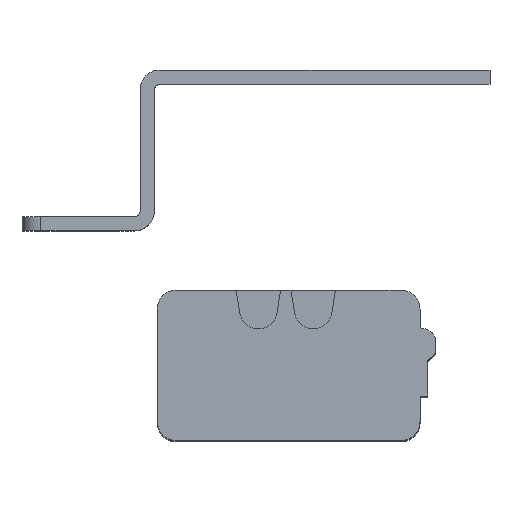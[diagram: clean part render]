
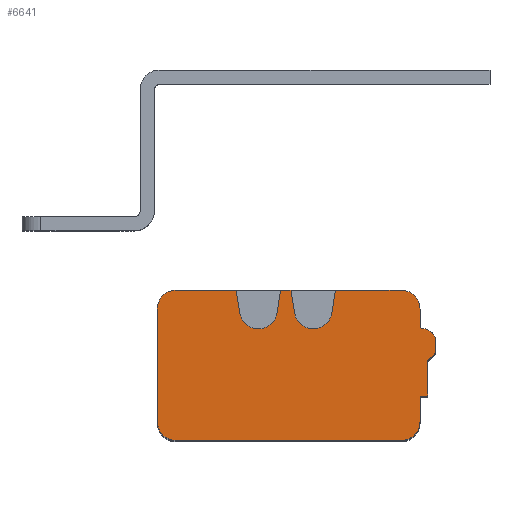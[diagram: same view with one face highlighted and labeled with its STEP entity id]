
A CAD part, top view. The second image highlights one B-rep face of the part: STEP entity #6641.
In plain terms, the highlighted planar face has unit normal (0, 0, 1).
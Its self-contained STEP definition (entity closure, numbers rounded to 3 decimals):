
#5376=CARTESIAN_POINT(' ',(12.677,13.496,5.15));
#5377=VERTEX_POINT(' ',#5376);
#5456=CARTESIAN_POINT(' ',(8.723,13.496,5.15));
#5457=VERTEX_POINT(' ',#5456);
#5471=CARTESIAN_POINT(' ',(10.7,13.8,5.15));
#5476=DIRECTION(' ',(0.,-0.,1.));
#5481=DIRECTION(' ',(-0.988,-0.152,0.));
#5486=AXIS2_PLACEMENT_3D(' ',#5471,#5476,#5481);
#5491=CIRCLE('',#5486,2.);
#5496=EDGE_CURVE(' ',#5457,#5377,#5491,.T.);
#5586=CARTESIAN_POINT(' ',(12.677,13.496,5.15));
#5591=DIRECTION(' ',(0.152,0.988,0.));
#5596=VECTOR(' ',#5591,1.);
#5601=LINE('',#5586,#5596);
#5606=CARTESIAN_POINT(' ',(13.046,15.9,5.15));
#5607=VERTEX_POINT(' ',#5606);
#5611=EDGE_CURVE(' ',#5377,#5607,#5601,.T.);
#5806=CARTESIAN_POINT(' ',(8.354,15.9,5.15));
#5811=DIRECTION(' ',(0.152,-0.988,0.));
#5816=VECTOR(' ',#5811,1.);
#5821=LINE('',#5806,#5816);
#5826=CARTESIAN_POINT(' ',(8.354,15.9,5.15));
#5827=VERTEX_POINT(' ',#5826);
#5831=EDGE_CURVE(' ',#5827,#5457,#5821,.T.);
#5896=DIRECTION(' ',(0.,-0.,1.));
#5901=CARTESIAN_POINT(' ',(29.4,0.,5.15));
#5906=DIRECTION(' ',(0.,1.,0.));
#5911=AXIS2_PLACEMENT_3D(' ',#5901,#5896,#5906);
#5916=PLANE('NONE',#5911);
#5921=CARTESIAN_POINT(' ',(18.477,13.496,5.15));
#5926=DIRECTION(' ',(0.152,0.988,0.));
#5931=VECTOR(' ',#5926,1.);
#5936=LINE('',#5921,#5931);
#5941=CARTESIAN_POINT(' ',(18.477,13.496,5.15));
#5942=VERTEX_POINT(' ',#5941);
#5946=CARTESIAN_POINT(' ',(18.846,15.9,5.15));
#5947=VERTEX_POINT(' ',#5946);
#5951=EDGE_CURVE(' ',#5942,#5947,#5936,.T.);
#5956=ORIENTED_EDGE(' ',*,*,#5951,.F.);
#5961=CARTESIAN_POINT(' ',(16.5,13.8,5.15));
#5966=DIRECTION(' ',(0.,-0.,1.));
#5971=DIRECTION(' ',(-0.988,-0.152,0.));
#5976=AXIS2_PLACEMENT_3D(' ',#5961,#5966,#5971);
#5981=CIRCLE('',#5976,2.);
#5986=CARTESIAN_POINT(' ',(14.523,13.496,5.15));
#5987=VERTEX_POINT(' ',#5986);
#5991=EDGE_CURVE(' ',#5987,#5942,#5981,.T.);
#5996=ORIENTED_EDGE(' ',*,*,#5991,.F.);
#6001=CARTESIAN_POINT(' ',(14.154,15.9,5.15));
#6006=DIRECTION(' ',(0.152,-0.988,0.));
#6011=VECTOR(' ',#6006,1.);
#6016=LINE('',#6001,#6011);
#6021=CARTESIAN_POINT(' ',(14.154,15.9,5.15));
#6022=VERTEX_POINT(' ',#6021);
#6026=EDGE_CURVE(' ',#6022,#5987,#6016,.T.);
#6031=ORIENTED_EDGE(' ',*,*,#6026,.F.);
#6036=CARTESIAN_POINT(' ',(13.046,15.9,5.15));
#6041=DIRECTION(' ',(1.,0.,0.));
#6046=VECTOR(' ',#6041,1.);
#6051=LINE('',#6036,#6046);
#6056=EDGE_CURVE(' ',#5607,#6022,#6051,.T.);
#6061=ORIENTED_EDGE(' ',*,*,#6056,.F.);
#6066=ORIENTED_EDGE(' ',*,*,#5611,.F.);
#6071=ORIENTED_EDGE(' ',*,*,#5496,.F.);
#6076=ORIENTED_EDGE(' ',*,*,#5831,.F.);
#6081=CARTESIAN_POINT(' ',(2.,15.9,5.15));
#6086=DIRECTION(' ',(1.,0.,0.));
#6091=VECTOR(' ',#6086,1.);
#6096=LINE('',#6081,#6091);
#6101=CARTESIAN_POINT(' ',(2.,15.9,5.15));
#6102=VERTEX_POINT(' ',#6101);
#6106=EDGE_CURVE(' ',#6102,#5827,#6096,.T.);
#6111=ORIENTED_EDGE(' ',*,*,#6106,.F.);
#6116=CARTESIAN_POINT(' ',(2.,13.9,5.15));
#6121=DIRECTION(' ',(0.,-0.,-1.));
#6126=DIRECTION(' ',(-1.,0.,0.));
#6131=AXIS2_PLACEMENT_3D(' ',#6116,#6121,#6126);
#6136=CIRCLE('',#6131,2.);
#6141=CARTESIAN_POINT(' ',(0.,13.9,5.15));
#6142=VERTEX_POINT(' ',#6141);
#6146=EDGE_CURVE(' ',#6142,#6102,#6136,.T.);
#6151=ORIENTED_EDGE(' ',*,*,#6146,.F.);
#6156=CARTESIAN_POINT(' ',(0.,2.,5.15));
#6161=DIRECTION(' ',(0.,1.,0.));
#6166=VECTOR(' ',#6161,1.);
#6171=LINE('',#6156,#6166);
#6176=CARTESIAN_POINT(' ',(0.,2.,5.15));
#6177=VERTEX_POINT(' ',#6176);
#6181=EDGE_CURVE(' ',#6177,#6142,#6171,.T.);
#6186=ORIENTED_EDGE(' ',*,*,#6181,.F.);
#6191=CARTESIAN_POINT(' ',(2.,2.,5.15));
#6196=DIRECTION(' ',(0.,0.,-1.));
#6201=DIRECTION(' ',(0.,-1.,0.));
#6206=AXIS2_PLACEMENT_3D(' ',#6191,#6196,#6201);
#6211=CIRCLE('',#6206,2.);
#6216=CARTESIAN_POINT(' ',(2.,0.,5.15));
#6217=VERTEX_POINT(' ',#6216);
#6221=EDGE_CURVE(' ',#6217,#6177,#6211,.T.);
#6226=ORIENTED_EDGE(' ',*,*,#6221,.F.);
#6231=CARTESIAN_POINT(' ',(25.8,0.,5.15));
#6236=DIRECTION(' ',(-1.,0.,0.));
#6241=VECTOR(' ',#6236,1.);
#6246=LINE('',#6231,#6241);
#6251=CARTESIAN_POINT(' ',(25.8,0.,5.15));
#6252=VERTEX_POINT(' ',#6251);
#6256=EDGE_CURVE(' ',#6252,#6217,#6246,.T.);
#6261=ORIENTED_EDGE(' ',*,*,#6256,.F.);
#6266=CARTESIAN_POINT(' ',(25.8,2.,5.15));
#6271=DIRECTION(' ',(0.,0.,-1.));
#6276=DIRECTION(' ',(1.,0.,0.));
#6281=AXIS2_PLACEMENT_3D(' ',#6266,#6271,#6276);
#6286=CIRCLE('',#6281,2.);
#6291=CARTESIAN_POINT(' ',(27.8,2.,5.15));
#6292=VERTEX_POINT(' ',#6291);
#6296=EDGE_CURVE(' ',#6292,#6252,#6286,.T.);
#6301=ORIENTED_EDGE(' ',*,*,#6296,.F.);
#6306=CARTESIAN_POINT(' ',(27.8,4.7,5.15));
#6311=DIRECTION(' ',(0.,-1.,0.));
#6316=VECTOR(' ',#6311,1.);
#6321=LINE('',#6306,#6316);
#6326=CARTESIAN_POINT(' ',(27.8,4.7,5.15));
#6327=VERTEX_POINT(' ',#6326);
#6331=EDGE_CURVE(' ',#6327,#6292,#6321,.T.);
#6336=ORIENTED_EDGE(' ',*,*,#6331,.F.);
#6341=CARTESIAN_POINT(' ',(28.6,4.7,5.15));
#6346=DIRECTION(' ',(-1.,0.,0.));
#6351=VECTOR(' ',#6346,1.);
#6356=LINE('',#6341,#6351);
#6361=CARTESIAN_POINT(' ',(28.6,4.7,5.15));
#6362=VERTEX_POINT(' ',#6361);
#6366=EDGE_CURVE(' ',#6362,#6327,#6356,.T.);
#6371=ORIENTED_EDGE(' ',*,*,#6366,.F.);
#6376=CARTESIAN_POINT(' ',(28.6,8.488,5.15));
#6381=DIRECTION(' ',(0.,-1.,0.));
#6386=VECTOR(' ',#6381,1.);
#6391=LINE('',#6376,#6386);
#6396=CARTESIAN_POINT(' ',(28.6,8.488,5.15));
#6397=VERTEX_POINT(' ',#6396);
#6401=EDGE_CURVE(' ',#6397,#6362,#6391,.T.);
#6406=ORIENTED_EDGE(' ',*,*,#6401,.F.);
#6411=CARTESIAN_POINT(' ',(27.803,10.097,5.15));
#6416=DIRECTION(' ',(0.,0.,-1.));
#6421=DIRECTION(' ',(0.889,-0.458,0.));
#6426=AXIS2_PLACEMENT_3D(' ',#6411,#6416,#6421);
#6431=CIRCLE('',#6426,1.796);
#6436=CARTESIAN_POINT(' ',(29.4,9.275,5.15));
#6437=VERTEX_POINT(' ',#6436);
#6441=EDGE_CURVE(' ',#6437,#6397,#6431,.T.);
#6446=ORIENTED_EDGE(' ',*,*,#6441,.F.);
#6451=CARTESIAN_POINT(' ',(29.4,10.925,5.15));
#6456=DIRECTION(' ',(0.,-1.,0.));
#6461=VECTOR(' ',#6456,1.);
#6466=LINE('',#6451,#6461);
#6471=CARTESIAN_POINT(' ',(29.4,10.925,5.15));
#6472=VERTEX_POINT(' ',#6471);
#6476=EDGE_CURVE(' ',#6472,#6437,#6466,.T.);
#6481=ORIENTED_EDGE(' ',*,*,#6476,.F.);
#6486=CARTESIAN_POINT(' ',(27.8,10.1,5.15));
#6491=DIRECTION(' ',(-0.,-0.,-1.));
#6496=DIRECTION(' ',(0.,1.,0.));
#6501=AXIS2_PLACEMENT_3D(' ',#6486,#6491,#6496);
#6506=CIRCLE('',#6501,1.8);
#6511=CARTESIAN_POINT(' ',(27.8,11.9,5.15));
#6512=VERTEX_POINT(' ',#6511);
#6516=EDGE_CURVE(' ',#6512,#6472,#6506,.T.);
#6521=ORIENTED_EDGE(' ',*,*,#6516,.F.);
#6526=CARTESIAN_POINT(' ',(27.8,13.9,5.15));
#6531=DIRECTION(' ',(0.,-1.,0.));
#6536=VECTOR(' ',#6531,1.);
#6541=LINE('',#6526,#6536);
#6546=CARTESIAN_POINT(' ',(27.8,13.9,5.15));
#6547=VERTEX_POINT(' ',#6546);
#6551=EDGE_CURVE(' ',#6547,#6512,#6541,.T.);
#6556=ORIENTED_EDGE(' ',*,*,#6551,.F.);
#6561=CARTESIAN_POINT(' ',(25.8,13.9,5.15));
#6566=DIRECTION(' ',(-0.,-0.,-1.));
#6571=DIRECTION(' ',(0.,1.,0.));
#6576=AXIS2_PLACEMENT_3D(' ',#6561,#6566,#6571);
#6581=CIRCLE('',#6576,2.);
#6586=CARTESIAN_POINT(' ',(25.8,15.9,5.15));
#6587=VERTEX_POINT(' ',#6586);
#6591=EDGE_CURVE(' ',#6587,#6547,#6581,.T.);
#6596=ORIENTED_EDGE(' ',*,*,#6591,.F.);
#6601=CARTESIAN_POINT(' ',(18.846,15.9,5.15));
#6606=DIRECTION(' ',(1.,0.,0.));
#6611=VECTOR(' ',#6606,1.);
#6616=LINE('',#6601,#6611);
#6621=EDGE_CURVE(' ',#5947,#6587,#6616,.T.);
#6626=ORIENTED_EDGE(' ',*,*,#6621,.F.);
#6631=EDGE_LOOP(' ',(#5956,#5996,#6031,#6061,#6066,#6071,#6076,#6111,#6151,#6186,#6226,#6261,#6301,#6336,#6371,#6406,#6446,#6481,#6521,#6556,#6596,#6626));
#6636=FACE_OUTER_BOUND(' ',#6631,.T.);
#6641=ADVANCED_FACE('NONE',(#6636),#5916,.T.);
